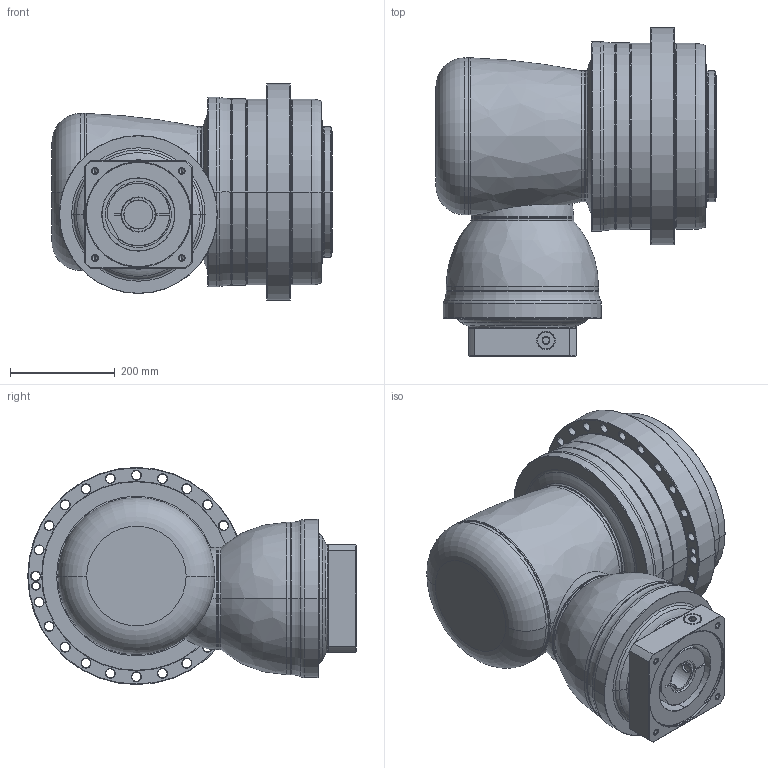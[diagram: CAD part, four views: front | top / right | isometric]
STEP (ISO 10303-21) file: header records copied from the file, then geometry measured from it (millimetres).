
FILE_DESCRIPTION((''),'2;1');
FILE_NAME('APK355_2ST_55-P0409C00201_ASM','2018-07-03T',('D00080'),(''),'PRO/ENGINEER BY PARAMETRIC TECHNOLOGY CORPORATION, 2008170','PRO/ENGINEER BY PARAMETRIC TECHNOLOGY CORPORATION, 2008170','');
FILE_SCHEMA(('CONFIG_CONTROL_DESIGN'));
Length unit declared in the file: millimetre
Products named in the file (13): P1008800002; P1315800001; P1007801001; P1318810401; P1831100001; P0276101003; P0357101103; P1222100001; P0503C00016; P0912804001; P0409C00201; 21711426021; APK355_2ST_55-P0409C00201_ASM
Assembly tree (12 placements, depth 2):
  APK355_2ST_55-P0409C00201_ASM
    P1008800002
    P1315800001
    P1007801001
    P1318810401
    P1831100001
    P0276101003
    P0357101103
    P1222100001
    P0503C00016
    P0912804001
    P0409C00201
    21711426021
Bounding box: 535 x 627.5 x 415 mm (x, y, z)
Volume: 59761521.4 mm3; surface area: 2645066.3 mm2
Topology: 13 solids, 40 shells, 807 faces, 1827 edges, 1094 vertices
Faces by surface type: cylinder 320, cone 232, plane 131, torus 102, bspline 20, sphere 2
Entity records: 27940 total; most frequent: CARTESIAN_POINT 9116, DIRECTION 4368, ORIENTED_EDGE 3456, AXIS2_PLACEMENT_3D 1874, EDGE_CURVE 1783, VERTEX_POINT 1094, CIRCLE 1050, EDGE_LOOP 967
